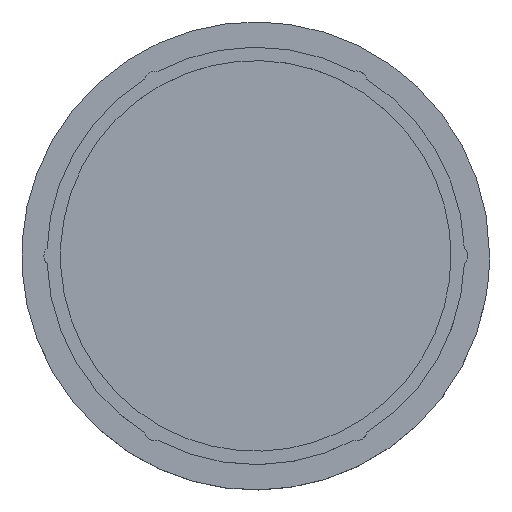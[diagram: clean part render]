
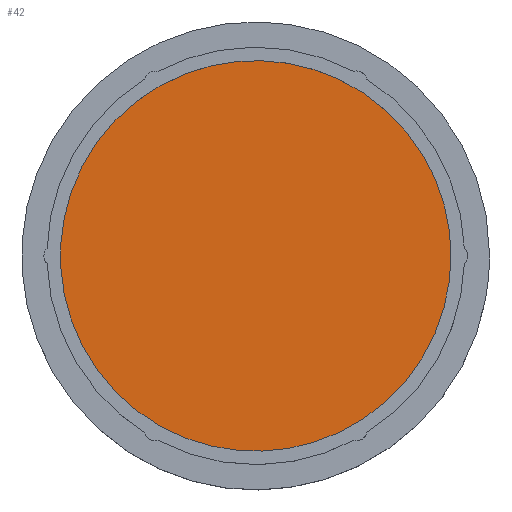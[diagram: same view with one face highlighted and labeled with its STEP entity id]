
A CAD part, top view. The second image highlights one B-rep face of the part: STEP entity #42.
In plain terms, the highlighted planar face has unit normal (0, 0, 1).
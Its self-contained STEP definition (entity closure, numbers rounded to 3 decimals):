
#42=ADVANCED_FACE('',(#122),#1193,.T.);
#122=FACE_OUTER_BOUND('',#202,.T.);
#202=EDGE_LOOP('',(#314));
#314=ORIENTED_EDGE('',*,*,#670,.T.);
#670=EDGE_CURVE('',#1050,#1050,#860,.T.);
#860=(
BOUNDED_CURVE()
B_SPLINE_CURVE(2,(#1829,#1830,#1831,#1832,#1833,#1834,#1835,#1836,#1837),
 .UNSPECIFIED.,.T.,.F.)
B_SPLINE_CURVE_WITH_KNOTS((3,2,2,2,3),(0.,48.93,97.861,
146.791,195.721),.UNSPECIFIED.)
CURVE()
GEOMETRIC_REPRESENTATION_ITEM()
RATIONAL_B_SPLINE_CURVE((1.,0.707,1.,0.707,1.,0.707,
1.,0.707,1.))
REPRESENTATION_ITEM('')
);
#1050=VERTEX_POINT('',#1694);
#1193=PLANE('',#1281);
#1281=AXIS2_PLACEMENT_3D('',#1409,#1345,$);
#1345=DIRECTION('',(0.,0.,1.));
#1409=CARTESIAN_POINT('',(-26.52,-26.52,34.4));
#1694=CARTESIAN_POINT('',(26.,0.,34.4));
#1829=CARTESIAN_POINT('',(26.,0.,34.4));
#1830=CARTESIAN_POINT('',(26.,26.,34.4));
#1831=CARTESIAN_POINT('',(0.,26.,34.4));
#1832=CARTESIAN_POINT('',(-26.,26.,34.4));
#1833=CARTESIAN_POINT('',(-26.,0.,34.4));
#1834=CARTESIAN_POINT('',(-26.,-26.,34.4));
#1835=CARTESIAN_POINT('',(0.,-26.,34.4));
#1836=CARTESIAN_POINT('',(26.,-26.,34.4));
#1837=CARTESIAN_POINT('',(26.,0.,34.4));
